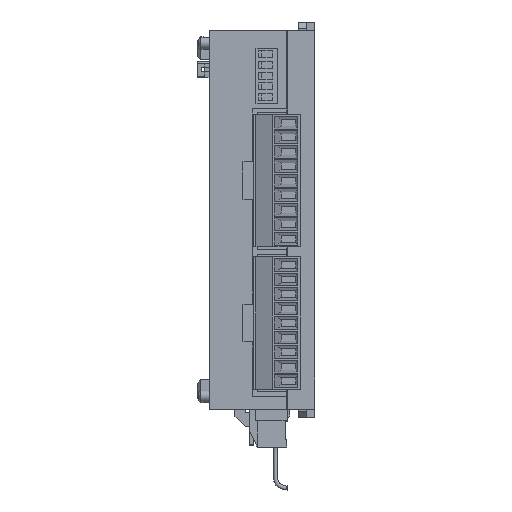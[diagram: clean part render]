
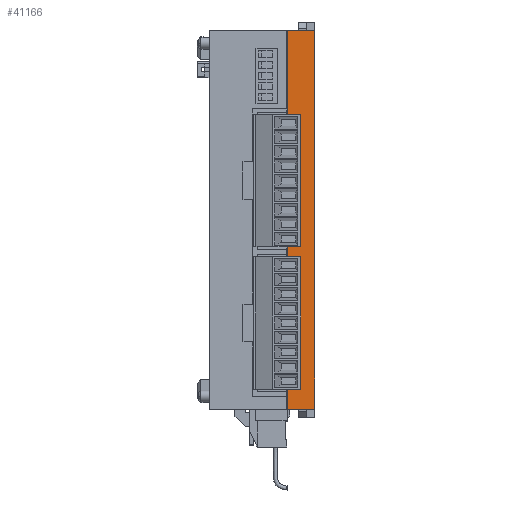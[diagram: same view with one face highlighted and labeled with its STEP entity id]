
A CAD part, top view. The second image highlights one B-rep face of the part: STEP entity #41166.
In plain terms, the highlighted planar face has unit normal (0, 0, 1).
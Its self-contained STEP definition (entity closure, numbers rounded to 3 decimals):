
#38340 = DIRECTION ( 'NONE',  ( 1., 0., 0. ) ) ;
#38342 = VECTOR ( 'NONE', #38340, 1000. ) ;
#38344 = CARTESIAN_POINT ( 'NONE',  ( -12.5, -45., 60. ) ) ;
#38345 = LINE ( 'NONE', #38344, #38342 ) ;
#38350 = CARTESIAN_POINT ( 'NONE',  ( 12.5, -45., 60. ) ) ;
#39776 = VERTEX_POINT ( 'NONE', #38350 ) ;
#39778 = EDGE_CURVE ( 'NONE', #54587, #39776, #38345, .T. ) ;
#40746 = VERTEX_POINT ( 'NONE', #41239 ) ;
#40748 = EDGE_CURVE ( 'NONE', #39776, #40746, #41235, .T. ) ;
#40894 = EDGE_CURVE ( 'NONE', #40746, #54557, #41472, .T. ) ;
#41166 = ADVANCED_FACE ( 'NONE', ( #42110 ), #42209, .T. ) ;
#41167 = EDGE_LOOP ( 'NONE', ( #41168, #41281, #41283, #41285 ) ) ;
#41168 = ORIENTED_EDGE ( 'NONE', *, *, #40894, .T. ) ;
#41230 = DIRECTION ( 'NONE',  ( 0., 1., 0. ) ) ;
#41231 = VECTOR ( 'NONE', #41230, 1000. ) ;
#41233 = CARTESIAN_POINT ( 'NONE',  ( 12.5, 45., 60. ) ) ;
#41235 = LINE ( 'NONE', #41233, #41231 ) ;
#41239 = CARTESIAN_POINT ( 'NONE',  ( 12.5, 45., 60. ) ) ;
#41281 = ORIENTED_EDGE ( 'NONE', *, *, #54586, .T. ) ;
#41283 = ORIENTED_EDGE ( 'NONE', *, *, #39778, .T. ) ;
#41285 = ORIENTED_EDGE ( 'NONE', *, *, #40748, .T. ) ;
#41464 = DIRECTION ( 'NONE',  ( -1., 0., 0. ) ) ;
#41465 = VECTOR ( 'NONE', #41464, 1000. ) ;
#41468 = CARTESIAN_POINT ( 'NONE',  ( -12.5, 45., 60. ) ) ;
#41472 = LINE ( 'NONE', #41468, #41465 ) ;
#42110 = FACE_OUTER_BOUND ( 'NONE', #41167, .T. ) ;
#42200 = DIRECTION ( 'NONE',  ( 1., 0., 0. ) ) ;
#42202 = DIRECTION ( 'NONE',  ( 0., 0., 1. ) ) ;
#42203 = CARTESIAN_POINT ( 'NONE',  ( -12.5, -45., 60. ) ) ;
#42204 = AXIS2_PLACEMENT_3D ( 'NONE', #42203, #42202, #42200 ) ;
#42209 = PLANE ( 'NONE',  #42204 ) ;
#52471 = CARTESIAN_POINT ( 'NONE',  ( 5.9, 45., 60. ) ) ;
#52534 = CARTESIAN_POINT ( 'NONE',  ( 5.9, -45., 60. ) ) ;
#52535 = DIRECTION ( 'NONE',  ( 0., -1., 0. ) ) ;
#52536 = VECTOR ( 'NONE', #52535, 1000. ) ;
#52537 = CARTESIAN_POINT ( 'NONE',  ( 5.9, 45., 60. ) ) ;
#52538 = LINE ( 'NONE', #52537, #52536 ) ;
#54557 = VERTEX_POINT ( 'NONE', #52471 ) ;
#54586 = EDGE_CURVE ( 'NONE', #54557, #54587, #52538, .T. ) ;
#54587 = VERTEX_POINT ( 'NONE', #52534 ) ;
